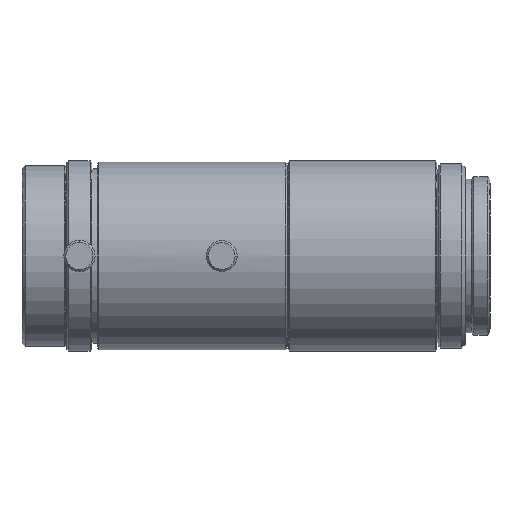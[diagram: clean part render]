
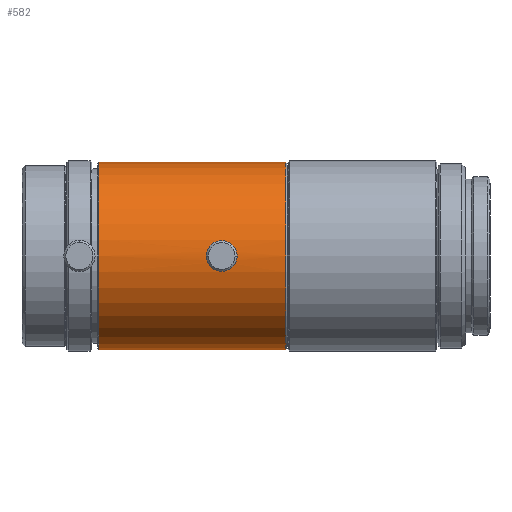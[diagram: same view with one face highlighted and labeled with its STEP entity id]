
A CAD part, front view. The second image highlights one B-rep face of the part: STEP entity #582.
In plain terms, the highlighted cylindrical face has radius 15 mm (diameter 30 mm), a partial arc.
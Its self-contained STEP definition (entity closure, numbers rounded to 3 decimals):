
#69 = CARTESIAN_POINT ( 'NONE',  ( -55.649, -14.992, -0.491 ) ) ;
#83 = CARTESIAN_POINT ( 'NONE',  ( -57.474, -15., -0.127 ) ) ;
#172 = CARTESIAN_POINT ( 'NONE',  ( -55.902, -14.98, 0.779 ) ) ;
#212 = EDGE_CURVE ( 'NONE', #2973, #3678, #3005, .T. ) ;
#335 = CARTESIAN_POINT ( 'NONE',  ( -100.172, 0., -15. ) ) ;
#357 = DIRECTION ( 'NONE',  ( -1., 0., 0. ) ) ;
#390 = EDGE_CURVE ( 'NONE', #2973, #3557, #3863, .T. ) ;
#400 = CARTESIAN_POINT ( 'NONE',  ( -55.901, -14.98, -0.779 ) ) ;
#459 = AXIS2_PLACEMENT_3D ( 'NONE', #1288, #3510, #1594 ) ;
#502 = CARTESIAN_POINT ( 'NONE',  ( -55.526, -15., 0.257 ) ) ;
#553 = AXIS2_PLACEMENT_3D ( 'NONE', #3346, #3326, #3363 ) ;
#582 = ADVANCED_FACE ( 'NONE', ( #771, #3193 ), #1495, .T. ) ;
#725 = CARTESIAN_POINT ( 'NONE',  ( -56.244, -14.97, -0.948 ) ) ;
#733 = B_SPLINE_CURVE_WITH_KNOTS ( 'NONE', 3,
 ( #1030, #2929, #1969, #69, #2290, #400, #2630, #725, #2942, #1046, #3248, #1344, #3568, #1657, #3875, #1980, #83, #2305 ),
 .UNSPECIFIED., .F., .F.,
 ( 4, 2, 2, 2, 2, 2, 2, 2, 4 ),
 ( 0., 0., 0.001, 0.001, 0.002, 0.002, 0.002, 0.003, 0.003 ),
 .UNSPECIFIED. ) ;
#771 = FACE_OUTER_BOUND ( 'NONE', #2419, .T. ) ;
#813 = CARTESIAN_POINT ( 'NONE',  ( -57.351, -14.992, 0.49 ) ) ;
#817 = VECTOR ( 'NONE', #2323, 1000. ) ;
#823 = EDGE_CURVE ( 'NONE', #3557, #1499, #3231, .T. ) ;
#863 = DIRECTION ( 'NONE',  ( -1., 0., 0. ) ) ;
#889 = CARTESIAN_POINT ( 'NONE',  ( -57.474, -15., 0. ) ) ;
#907 = DIRECTION ( 'NONE',  ( 0., 0., 1. ) ) ;
#1030 = CARTESIAN_POINT ( 'NONE',  ( -55.526, -15., 0. ) ) ;
#1046 = CARTESIAN_POINT ( 'NONE',  ( -56.627, -14.968, -0.974 ) ) ;
#1071 = CARTESIAN_POINT ( 'NONE',  ( -100.172, 0., 0. ) ) ;
#1126 = CARTESIAN_POINT ( 'NONE',  ( -57.099, -14.98, 0.778 ) ) ;
#1264 = AXIS2_PLACEMENT_3D ( 'NONE', #1071, #863, #907 ) ;
#1287 = EDGE_LOOP ( 'NONE', ( #3895, #2119 ) ) ;
#1288 = CARTESIAN_POINT ( 'NONE',  ( -76.2, 0., 0. ) ) ;
#1318 = CARTESIAN_POINT ( 'NONE',  ( -76.2, 0., 15. ) ) ;
#1344 = CARTESIAN_POINT ( 'NONE',  ( -56.99, -14.976, -0.851 ) ) ;
#1434 = CARTESIAN_POINT ( 'NONE',  ( -56.756, -14.97, 0.948 ) ) ;
#1478 = ORIENTED_EDGE ( 'NONE', *, *, #3776, .F. ) ;
#1495 = CYLINDRICAL_SURFACE ( 'NONE', #1264, 15. ) ;
#1499 = VERTEX_POINT ( 'NONE', #1318 ) ;
#1578 = CARTESIAN_POINT ( 'NONE',  ( -46.2, 0., -15. ) ) ;
#1594 = DIRECTION ( 'NONE',  ( 0., 0., 1. ) ) ;
#1657 = CARTESIAN_POINT ( 'NONE',  ( -57.28, -14.988, -0.598 ) ) ;
#1744 = CARTESIAN_POINT ( 'NONE',  ( -56.372, -14.968, 0.974 ) ) ;
#1969 = CARTESIAN_POINT ( 'NONE',  ( -55.551, -14.998, -0.255 ) ) ;
#1980 = CARTESIAN_POINT ( 'NONE',  ( -57.449, -14.998, -0.255 ) ) ;
#2071 = CARTESIAN_POINT ( 'NONE',  ( -56.01, -14.976, 0.851 ) ) ;
#2119 = ORIENTED_EDGE ( 'NONE', *, *, #3210, .T. ) ;
#2290 = CARTESIAN_POINT ( 'NONE',  ( -55.722, -14.988, -0.599 ) ) ;
#2305 = CARTESIAN_POINT ( 'NONE',  ( -57.474, -15., 0. ) ) ;
#2315 = B_SPLINE_CURVE_WITH_KNOTS ( 'NONE', 3,
 ( #2386, #3948, #2718, #813, #3030, #1126, #3330, #1434, #3654, #1744, #3953, #2071, #172, #2396, #502, #2729 ),
 .UNSPECIFIED., .F., .F.,
 ( 4, 2, 2, 2, 2, 2, 2, 4 ),
 ( 0.003, 0.003, 0.004, 0.004, 0.005, 0.005, 0.005, 0.006 ),
 .UNSPECIFIED. ) ;
#2323 = DIRECTION ( 'NONE',  ( -1., 0., 0. ) ) ;
#2386 = CARTESIAN_POINT ( 'NONE',  ( -57.474, -15., 0. ) ) ;
#2396 = CARTESIAN_POINT ( 'NONE',  ( -55.632, -14.992, 0.51 ) ) ;
#2419 = EDGE_LOOP ( 'NONE', ( #2763, #3356, #3590, #1478 ) ) ;
#2630 = CARTESIAN_POINT ( 'NONE',  ( -56.01, -14.976, -0.851 ) ) ;
#2718 = CARTESIAN_POINT ( 'NONE',  ( -57.448, -14.998, 0.255 ) ) ;
#2729 = CARTESIAN_POINT ( 'NONE',  ( -55.526, -15., 0. ) ) ;
#2748 = CARTESIAN_POINT ( 'NONE',  ( -46.2, 0., 15. ) ) ;
#2749 = CIRCLE ( 'NONE', #459, 15. ) ;
#2763 = ORIENTED_EDGE ( 'NONE', *, *, #212, .F. ) ;
#2929 = CARTESIAN_POINT ( 'NONE',  ( -55.526, -15., -0.129 ) ) ;
#2942 = CARTESIAN_POINT ( 'NONE',  ( -56.373, -14.968, -0.974 ) ) ;
#2973 = VERTEX_POINT ( 'NONE', #1578 ) ;
#3005 = LINE ( 'NONE', #335, #3731 ) ;
#3030 = CARTESIAN_POINT ( 'NONE',  ( -57.279, -14.988, 0.598 ) ) ;
#3056 = VERTEX_POINT ( 'NONE', #3527 ) ;
#3084 = EDGE_CURVE ( 'NONE', #3056, #3339, #733, .T. ) ;
#3193 = FACE_BOUND ( 'NONE', #1287, .T. ) ;
#3210 = EDGE_CURVE ( 'NONE', #3339, #3056, #2315, .T. ) ;
#3231 = LINE ( 'NONE', #3665, #817 ) ;
#3248 = CARTESIAN_POINT ( 'NONE',  ( -56.754, -14.97, -0.949 ) ) ;
#3326 = DIRECTION ( 'NONE',  ( -1., 0., 0. ) ) ;
#3330 = CARTESIAN_POINT ( 'NONE',  ( -56.991, -14.976, 0.851 ) ) ;
#3339 = VERTEX_POINT ( 'NONE', #889 ) ;
#3346 = CARTESIAN_POINT ( 'NONE',  ( -46.2, 0., 0. ) ) ;
#3356 = ORIENTED_EDGE ( 'NONE', *, *, #390, .T. ) ;
#3363 = DIRECTION ( 'NONE',  ( 0., 0., 1. ) ) ;
#3510 = DIRECTION ( 'NONE',  ( -1., 0., 0. ) ) ;
#3527 = CARTESIAN_POINT ( 'NONE',  ( -55.526, -15., 0. ) ) ;
#3557 = VERTEX_POINT ( 'NONE', #2748 ) ;
#3568 = CARTESIAN_POINT ( 'NONE',  ( -57.098, -14.98, -0.78 ) ) ;
#3590 = ORIENTED_EDGE ( 'NONE', *, *, #823, .T. ) ;
#3654 = CARTESIAN_POINT ( 'NONE',  ( -56.629, -14.968, 0.974 ) ) ;
#3665 = CARTESIAN_POINT ( 'NONE',  ( -100.172, 0., 15. ) ) ;
#3678 = VERTEX_POINT ( 'NONE', #4044 ) ;
#3731 = VECTOR ( 'NONE', #357, 1000. ) ;
#3776 = EDGE_CURVE ( 'NONE', #3678, #1499, #2749, .T. ) ;
#3863 = CIRCLE ( 'NONE', #553, 15. ) ;
#3875 = CARTESIAN_POINT ( 'NONE',  ( -57.351, -14.992, -0.491 ) ) ;
#3895 = ORIENTED_EDGE ( 'NONE', *, *, #3084, .T. ) ;
#3948 = CARTESIAN_POINT ( 'NONE',  ( -57.474, -15., 0.127 ) ) ;
#3953 = CARTESIAN_POINT ( 'NONE',  ( -56.246, -14.97, 0.949 ) ) ;
#4044 = CARTESIAN_POINT ( 'NONE',  ( -76.2, 0., -15. ) ) ;
